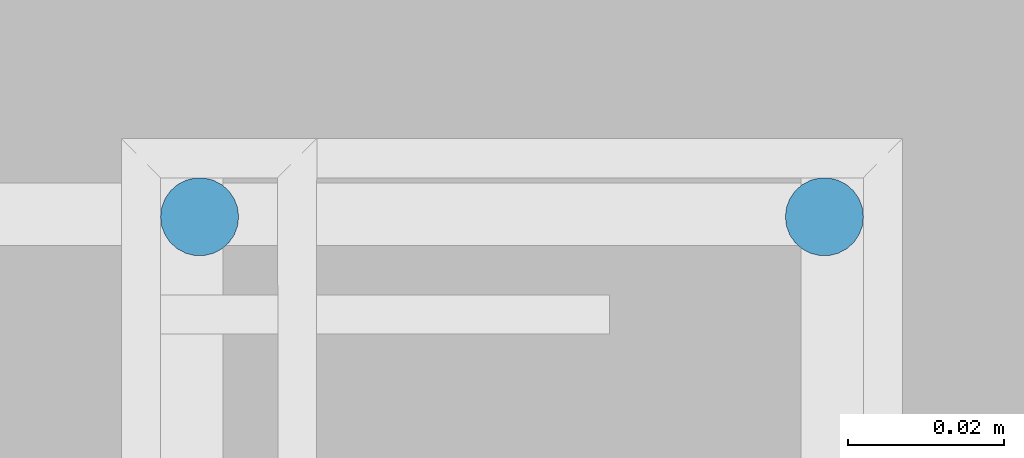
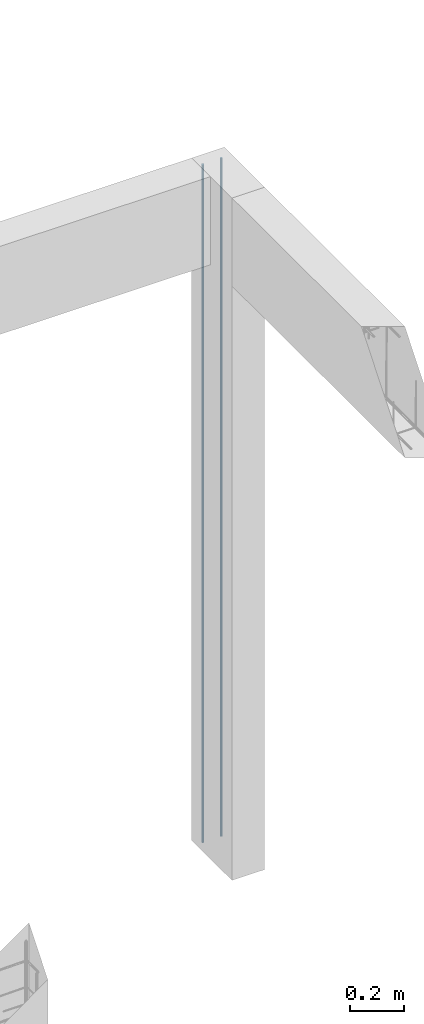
# One storey, part 82 of 236: 2 reinforcing bars.
"""IFC4 building model written with IfcOpenShell, lengths in centimetres."""

from ifc_helpers import new_model, entity, si_unit, derived_unit, frame, origin_with_axes, place, context, project, spatial, element, save


model = new_model("IFC4")

# Units and contexts
model_context = context("Model", 3, precision=1e-05, world=origin_with_axes(), identifier="Body")
ifc_project = project(units=[si_unit("LENGTHUNIT", "METRE", prefix="CENTI"), si_unit("VOLUMEUNIT", "CUBIC_METRE"), si_unit("AREAUNIT", "SQUARE_METRE"), si_unit("POWERUNIT", "WATT"), si_unit("LUMINOUSFLUXUNIT", "LUMEN"), si_unit("ELECTRICCURRENTUNIT", "AMPERE"), si_unit("PRESSUREUNIT", "PASCAL", prefix="KILO"), si_unit("MASSUNIT", "GRAM", prefix="KILO"), si_unit("PLANEANGLEUNIT", "RADIAN"), derived_unit("VOLUMETRICFLOWRATEUNIT", [(si_unit("LENGTHUNIT", "METRE"), 3), (si_unit("TIMEUNIT", "SECOND"), -1)])], contexts=[model_context])

# Site, building, storey
site_placement = place(None, frame((-4000.0, 0.0, 0.0), z_axis=(0.0, 0.0, 1.0), x_axis=(1.0, 0.0, 0.0)))
site = spatial("IfcSite", under=ifc_project, at=site_placement, Name="PADRÃO")
building_placement = place(site_placement, frame((0.0, 0.0, -14.0)))
building = spatial("IfcBuilding", under=site, at=building_placement, Name="CRECHE PRÉ-ESCOLA TIPO 2")
placement_1 = place(building_placement, origin_with_axes())
placement_2 = place(placement_1, frame((0.0, 0.0, 30.0), z_axis=(0.0, 0.0, 1.0), x_axis=(1.0, 0.0, 0.0)))
storey_placement = place(placement_2, frame((0.0, 0.0, 310.0), z_axis=(0.0, 0.0, 1.0), x_axis=(1.0, 0.0, 0.0)))
storey = spatial("IfcBuildingStorey", under=building, at=storey_placement, Name="TERREO", CompositionType="ELEMENT", Elevation=326.0)

# Reinforcing bars
for number, where, z_axis, x_axis, name in (
    (1, (2714.75, 1926.52, -2.0), (0.0, 0.0, 1.0), (1.0, 0.0, 0.0), "P90 - Longitudinal"),
    (2, (2722.75, 1926.52, -2.0), (0.0, 0.0, 1.0), (1.0, 0.0, 0.0), "P90 - Longitudinal"),
):
    element("IfcReinforcingBar", number, at=place(storey_placement, frame(where, z_axis=z_axis, x_axis=x_axis)), inside=storey, Name=name, BarLength=0.0, CrossSectionArea=7.853981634e-05, NominalDiameter=1.0, PredefinedType="MAIN", context=model_context, shape_type="AdvancedSweptSolid", body=[
        entity("IfcSweptDiskSolid", entity("IfcCompositeCurve", [entity("IfcCompositeCurveSegment", "CONTINUOUS", True, entity("IfcPolyline", [entity("IfcCartesianPoint", [0.0, 0.0, -308.0]), entity("IfcCartesianPoint", [0.0, 0.0, 0.0])]))], False), 0.5),
    ])

save(model, "model.ifc")
